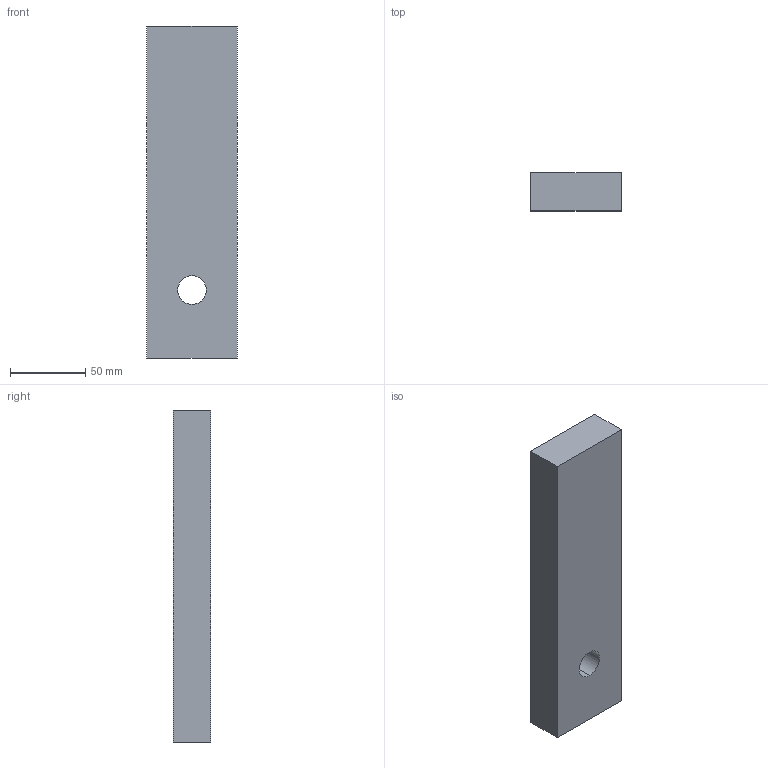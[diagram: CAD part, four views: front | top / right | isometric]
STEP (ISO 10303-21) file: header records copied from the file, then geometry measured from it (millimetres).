
FILE_DESCRIPTION (( 'STEP AP203' ), '1' );
FILE_NAME ('Druckplatte_110430.STEP', '2021-03-15T14:54:34', ( '' ), ( '' ), 'SwSTEP 2.0', 'SolidWorks 2013', '' );
FILE_SCHEMA (( 'CONFIG_CONTROL_DESIGN' ));
Length unit declared in the file: millimetre
Products named in the file (1): Druckplatte_110430
Bounding box: 60 x 25 x 220 mm (x, y, z)
Volume: 322911.8 mm3; surface area: 41325.2 mm2
Topology: 1 solids, 1 shells, 8 faces, 18 edges, 12 vertices
Faces by surface type: plane 6, cylinder 2
Entity records: 309 total; most frequent: DIRECTION 40, CARTESIAN_POINT 39, ORIENTED_EDGE 36, EDGE_CURVE 18, LINE 14, VECTOR 14, AXIS2_PLACEMENT_3D 13, VERTEX_POINT 12
